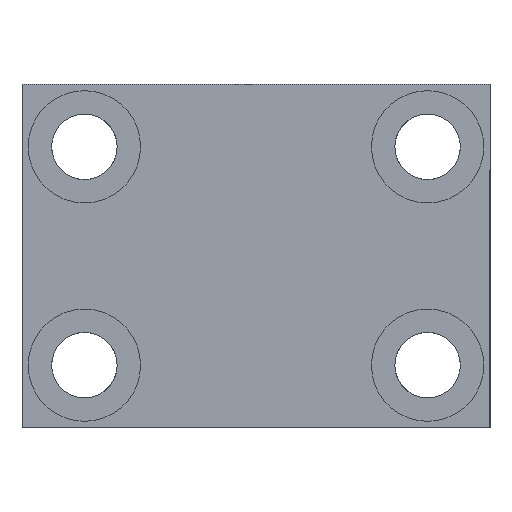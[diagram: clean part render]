
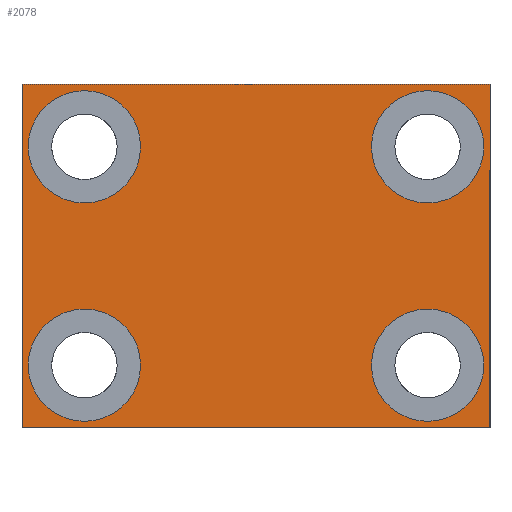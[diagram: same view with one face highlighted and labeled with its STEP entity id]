
A CAD part, front view. The second image highlights one B-rep face of the part: STEP entity #2078.
In plain terms, the highlighted planar face has unit normal (0, -1, 0).
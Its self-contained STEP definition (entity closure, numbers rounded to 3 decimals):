
#41 = CARTESIAN_POINT ( 'NONE',  ( 27.5, 0., -17.5 ) ) ;
#90 = LINE ( 'NONE', #2147, #3540 ) ;
#128 = AXIS2_PLACEMENT_3D ( 'NONE', #561, #2440, #835 ) ;
#155 = DIRECTION ( 'NONE',  ( 0., 0., -1. ) ) ;
#193 = CARTESIAN_POINT ( 'NONE',  ( -27.5, 0., -17.5 ) ) ;
#223 = CARTESIAN_POINT ( 'NONE',  ( -37.5, 0., -27.5 ) ) ;
#272 = ORIENTED_EDGE ( 'NONE', *, *, #1081, .F. ) ;
#305 = DIRECTION ( 'NONE',  ( 0., 0., -1. ) ) ;
#314 = ORIENTED_EDGE ( 'NONE', *, *, #913, .F. ) ;
#317 = CARTESIAN_POINT ( 'NONE',  ( 27.5, 0., -8.5 ) ) ;
#468 = VECTOR ( 'NONE', #2116, 1000. ) ;
#474 = DIRECTION ( 'NONE',  ( 0., 0., -1. ) ) ;
#561 = CARTESIAN_POINT ( 'NONE',  ( 27.5, 0., -17.5 ) ) ;
#616 = VECTOR ( 'NONE', #2218, 1000. ) ;
#625 = ORIENTED_EDGE ( 'NONE', *, *, #2690, .F. ) ;
#677 = AXIS2_PLACEMENT_3D ( 'NONE', #41, #1931, #305 ) ;
#680 = VERTEX_POINT ( 'NONE', #1795 ) ;
#682 = VERTEX_POINT ( 'NONE', #2065 ) ;
#689 = CARTESIAN_POINT ( 'NONE',  ( 0., 0., 0. ) ) ;
#698 = DIRECTION ( 'NONE',  ( 0., 0., 1. ) ) ;
#736 = AXIS2_PLACEMENT_3D ( 'NONE', #2500, #900, #2789 ) ;
#755 = CARTESIAN_POINT ( 'NONE',  ( 27.5, 0., 17.5 ) ) ;
#773 = EDGE_LOOP ( 'NONE', ( #1854, #314 ) ) ;
#799 = VERTEX_POINT ( 'NONE', #1859 ) ;
#815 = CARTESIAN_POINT ( 'NONE',  ( -27.5, 0., 26.5 ) ) ;
#835 = DIRECTION ( 'NONE',  ( 0., 0., -1. ) ) ;
#900 = DIRECTION ( 'NONE',  ( 0., -1., 0. ) ) ;
#902 = CARTESIAN_POINT ( 'NONE',  ( -37.5, 0., 27.5 ) ) ;
#913 = EDGE_CURVE ( 'NONE', #2646, #2259, #1583, .T. ) ;
#970 = EDGE_CURVE ( 'NONE', #2259, #2646, #2293, .T. ) ;
#1029 = ORIENTED_EDGE ( 'NONE', *, *, #1034, .F. ) ;
#1034 = EDGE_CURVE ( 'NONE', #680, #682, #1255, .T. ) ;
#1036 = DIRECTION ( 'NONE',  ( 0., 0., -1. ) ) ;
#1045 = DIRECTION ( 'NONE',  ( 0., -1., 0. ) ) ;
#1051 = EDGE_LOOP ( 'NONE', ( #1510, #1356 ) ) ;
#1081 = EDGE_CURVE ( 'NONE', #3479, #680, #1172, .T. ) ;
#1090 = CARTESIAN_POINT ( 'NONE',  ( -27.5, 0., 17.5 ) ) ;
#1172 = LINE ( 'NONE', #902, #3249 ) ;
#1199 = CIRCLE ( 'NONE', #2846, 9. ) ;
#1255 = LINE ( 'NONE', #3067, #616 ) ;
#1310 = ORIENTED_EDGE ( 'NONE', *, *, #2216, .F. ) ;
#1356 = ORIENTED_EDGE ( 'NONE', *, *, #3208, .F. ) ;
#1360 = DIRECTION ( 'NONE',  ( 0., 0., -1. ) ) ;
#1374 = CARTESIAN_POINT ( 'NONE',  ( -27.5, 0., 8.5 ) ) ;
#1404 = CARTESIAN_POINT ( 'NONE',  ( 27.5, 0., 8.5 ) ) ;
#1428 = EDGE_LOOP ( 'NONE', ( #1310, #3321 ) ) ;
#1510 = ORIENTED_EDGE ( 'NONE', *, *, #2976, .F. ) ;
#1538 = CIRCLE ( 'NONE', #2644, 9. ) ;
#1583 = CIRCLE ( 'NONE', #128, 9. ) ;
#1701 = CIRCLE ( 'NONE', #3492, 9. ) ;
#1703 = CARTESIAN_POINT ( 'NONE',  ( -37.5, 0., -27.5 ) ) ;
#1744 = EDGE_CURVE ( 'NONE', #2344, #2613, #1538, .T. ) ;
#1770 = PLANE ( 'NONE',  #2320 ) ;
#1778 = DIRECTION ( 'NONE',  ( 0., -1., 0. ) ) ;
#1795 = CARTESIAN_POINT ( 'NONE',  ( 37.5, 0., 27.5 ) ) ;
#1810 = ORIENTED_EDGE ( 'NONE', *, *, #2510, .F. ) ;
#1844 = FACE_OUTER_BOUND ( 'NONE', #2426, .T. ) ;
#1854 = ORIENTED_EDGE ( 'NONE', *, *, #970, .F. ) ;
#1859 = CARTESIAN_POINT ( 'NONE',  ( 27.5, 0., 26.5 ) ) ;
#1917 = FACE_BOUND ( 'NONE', #1051, .T. ) ;
#1923 = VERTEX_POINT ( 'NONE', #1703 ) ;
#1929 = CARTESIAN_POINT ( 'NONE',  ( -27.5, 0., -26.5 ) ) ;
#1931 = DIRECTION ( 'NONE',  ( 0., -1., 0. ) ) ;
#1949 = CIRCLE ( 'NONE', #736, 9. ) ;
#2054 = AXIS2_PLACEMENT_3D ( 'NONE', #1090, #2982, #1360 ) ;
#2065 = CARTESIAN_POINT ( 'NONE',  ( 37.5, 0., -27.5 ) ) ;
#2078 = ADVANCED_FACE ( 'NONE', ( #3389, #3289, #1917, #2550, #1844 ), #1770, .F. ) ;
#2084 = DIRECTION ( 'NONE',  ( 0., -1., 0. ) ) ;
#2116 = DIRECTION ( 'NONE',  ( 0., 0., 1. ) ) ;
#2147 = CARTESIAN_POINT ( 'NONE',  ( -37.5, 0., -27.5 ) ) ;
#2216 = EDGE_CURVE ( 'NONE', #2613, #2344, #1701, .T. ) ;
#2218 = DIRECTION ( 'NONE',  ( 0., 0., -1. ) ) ;
#2259 = VERTEX_POINT ( 'NONE', #3230 ) ;
#2293 = CIRCLE ( 'NONE', #677, 9. ) ;
#2302 = DIRECTION ( 'NONE',  ( 0., 1., 0. ) ) ;
#2320 = AXIS2_PLACEMENT_3D ( 'NONE', #689, #2302, #698 ) ;
#2333 = EDGE_CURVE ( 'NONE', #682, #1923, #90, .T. ) ;
#2344 = VERTEX_POINT ( 'NONE', #3541 ) ;
#2392 = AXIS2_PLACEMENT_3D ( 'NONE', #3423, #1778, #155 ) ;
#2417 = DIRECTION ( 'NONE',  ( -1., 0., 0. ) ) ;
#2426 = EDGE_LOOP ( 'NONE', ( #1029, #272, #2922, #3501 ) ) ;
#2439 = LINE ( 'NONE', #223, #468 ) ;
#2440 = DIRECTION ( 'NONE',  ( 0., -1., 0. ) ) ;
#2500 = CARTESIAN_POINT ( 'NONE',  ( -27.5, 0., 17.5 ) ) ;
#2510 = EDGE_CURVE ( 'NONE', #2513, #3531, #3022, .T. ) ;
#2513 = VERTEX_POINT ( 'NONE', #815 ) ;
#2550 = FACE_BOUND ( 'NONE', #3519, .T. ) ;
#2579 = CIRCLE ( 'NONE', #2392, 9. ) ;
#2613 = VERTEX_POINT ( 'NONE', #1929 ) ;
#2639 = DIRECTION ( 'NONE',  ( 0., -1., 0. ) ) ;
#2644 = AXIS2_PLACEMENT_3D ( 'NONE', #193, #2084, #474 ) ;
#2646 = VERTEX_POINT ( 'NONE', #317 ) ;
#2655 = CARTESIAN_POINT ( 'NONE',  ( -27.5, 0., -17.5 ) ) ;
#2690 = EDGE_CURVE ( 'NONE', #3531, #2513, #1949, .T. ) ;
#2789 = DIRECTION ( 'NONE',  ( 0., 0., -1. ) ) ;
#2791 = DIRECTION ( 'NONE',  ( 1., 0., 0. ) ) ;
#2846 = AXIS2_PLACEMENT_3D ( 'NONE', #755, #2639, #1036 ) ;
#2922 = ORIENTED_EDGE ( 'NONE', *, *, #3029, .F. ) ;
#2941 = DIRECTION ( 'NONE',  ( 0., 0., -1. ) ) ;
#2976 = EDGE_CURVE ( 'NONE', #3153, #799, #1199, .T. ) ;
#2982 = DIRECTION ( 'NONE',  ( 0., -1., 0. ) ) ;
#3022 = CIRCLE ( 'NONE', #2054, 9. ) ;
#3029 = EDGE_CURVE ( 'NONE', #1923, #3479, #2439, .T. ) ;
#3067 = CARTESIAN_POINT ( 'NONE',  ( 37.5, 0., -27.5 ) ) ;
#3153 = VERTEX_POINT ( 'NONE', #1404 ) ;
#3208 = EDGE_CURVE ( 'NONE', #799, #3153, #2579, .T. ) ;
#3230 = CARTESIAN_POINT ( 'NONE',  ( 27.5, 0., -26.5 ) ) ;
#3249 = VECTOR ( 'NONE', #2791, 1000. ) ;
#3269 = CARTESIAN_POINT ( 'NONE',  ( -37.5, 0., 27.5 ) ) ;
#3289 = FACE_BOUND ( 'NONE', #773, .T. ) ;
#3321 = ORIENTED_EDGE ( 'NONE', *, *, #1744, .F. ) ;
#3389 = FACE_BOUND ( 'NONE', #1428, .T. ) ;
#3423 = CARTESIAN_POINT ( 'NONE',  ( 27.5, 0., 17.5 ) ) ;
#3479 = VERTEX_POINT ( 'NONE', #3269 ) ;
#3492 = AXIS2_PLACEMENT_3D ( 'NONE', #2655, #1045, #2941 ) ;
#3501 = ORIENTED_EDGE ( 'NONE', *, *, #2333, .F. ) ;
#3519 = EDGE_LOOP ( 'NONE', ( #625, #1810 ) ) ;
#3531 = VERTEX_POINT ( 'NONE', #1374 ) ;
#3540 = VECTOR ( 'NONE', #2417, 1000. ) ;
#3541 = CARTESIAN_POINT ( 'NONE',  ( -27.5, 0., -8.5 ) ) ;
